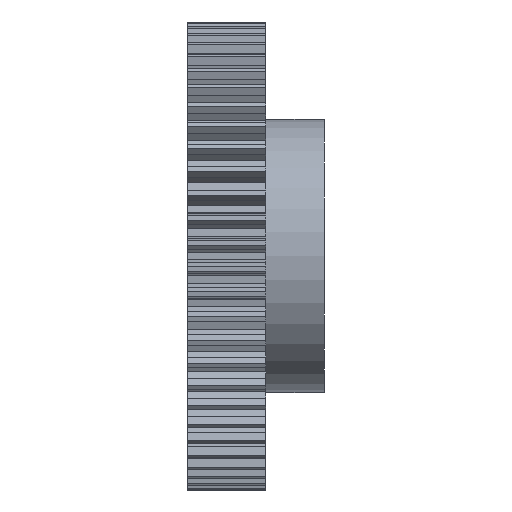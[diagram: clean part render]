
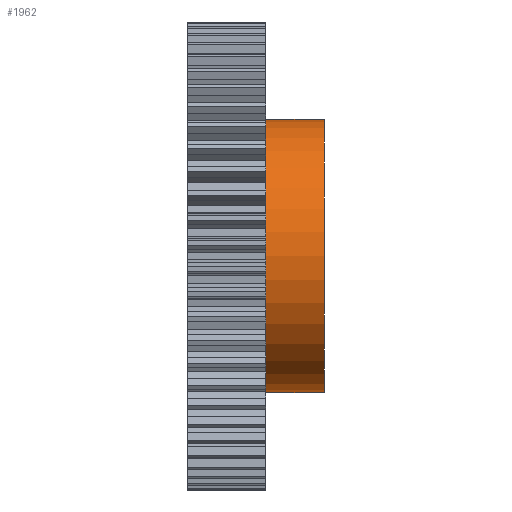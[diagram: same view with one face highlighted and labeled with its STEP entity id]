
A CAD part, front view. The second image highlights one B-rep face of the part: STEP entity #1962.
In plain terms, the highlighted cylindrical face has radius 35 mm (diameter 70 mm), a partial arc.
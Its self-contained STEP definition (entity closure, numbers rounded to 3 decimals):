
#179 = VERTEX_POINT ( 'NONE', #3708 ) ;
#253 = EDGE_CURVE ( 'NONE', #267, #2140, #3846, .T. ) ;
#267 = VERTEX_POINT ( 'NONE', #3886 ) ;
#808 = EDGE_LOOP ( 'NONE', ( #1827, #1835, #1963, #1859 ) ) ;
#1208 = EDGE_CURVE ( 'NONE', #2130, #2140, #5461, .T. ) ;
#1217 = EDGE_CURVE ( 'NONE', #267, #179, #5506, .T. ) ;
#1827 = ORIENTED_EDGE ( 'NONE', *, *, #253, .F. ) ;
#1835 = ORIENTED_EDGE ( 'NONE', *, *, #1217, .T. ) ;
#1859 = ORIENTED_EDGE ( 'NONE', *, *, #1208, .T. ) ;
#1962 = ADVANCED_FACE ( 'NONE', ( #6667 ), #6614, .T. ) ;
#1963 = ORIENTED_EDGE ( 'NONE', *, *, #2126, .T. ) ;
#2126 = EDGE_CURVE ( 'NONE', #179, #2130, #6972, .T. ) ;
#2130 = VERTEX_POINT ( 'NONE', #6980 ) ;
#2140 = VERTEX_POINT ( 'NONE', #6953 ) ;
#3708 = CARTESIAN_POINT ( 'NONE',  ( 25., 0., 35. ) ) ;
#3811 = CARTESIAN_POINT ( 'NONE',  ( 10., 0., -35. ) ) ;
#3846 = LINE ( 'NONE', #3811, #3895 ) ;
#3886 = CARTESIAN_POINT ( 'NONE',  ( 25., 0., -35. ) ) ;
#3894 = DIRECTION ( 'NONE',  ( -1., 0., 0. ) ) ;
#3895 = VECTOR ( 'NONE', #3894, 1000. ) ;
#5461 = CIRCLE ( 'NONE', #5515, 35. ) ;
#5501 = DIRECTION ( 'NONE',  ( 0., 0., 1. ) ) ;
#5502 = DIRECTION ( 'NONE',  ( -1., 0., 0. ) ) ;
#5503 = CARTESIAN_POINT ( 'NONE',  ( 25., 0., 0. ) ) ;
#5504 = AXIS2_PLACEMENT_3D ( 'NONE', #5503, #5502, #5501 ) ;
#5506 = CIRCLE ( 'NONE', #5504, 35. ) ;
#5511 = DIRECTION ( 'NONE',  ( 0., 0., 1. ) ) ;
#5512 = DIRECTION ( 'NONE',  ( 1., 0., 0. ) ) ;
#5513 = CARTESIAN_POINT ( 'NONE',  ( 10., 0., 0. ) ) ;
#5515 = AXIS2_PLACEMENT_3D ( 'NONE', #5513, #5512, #5511 ) ;
#6614 = CYLINDRICAL_SURFACE ( 'NONE', #6666, 35. ) ;
#6660 = DIRECTION ( 'NONE',  ( 0., 0., 1. ) ) ;
#6661 = DIRECTION ( 'NONE',  ( -1., 0., 0. ) ) ;
#6662 = CARTESIAN_POINT ( 'NONE',  ( 10., 0., 0. ) ) ;
#6666 = AXIS2_PLACEMENT_3D ( 'NONE', #6662, #6661, #6660 ) ;
#6667 = FACE_OUTER_BOUND ( 'NONE', #808, .T. ) ;
#6953 = CARTESIAN_POINT ( 'NONE',  ( 10., 0., -35. ) ) ;
#6965 = DIRECTION ( 'NONE',  ( -1., 0., 0. ) ) ;
#6966 = VECTOR ( 'NONE', #6965, 1000. ) ;
#6967 = CARTESIAN_POINT ( 'NONE',  ( 10., 0., 35. ) ) ;
#6972 = LINE ( 'NONE', #6967, #6966 ) ;
#6980 = CARTESIAN_POINT ( 'NONE',  ( 10., 0., 35. ) ) ;
